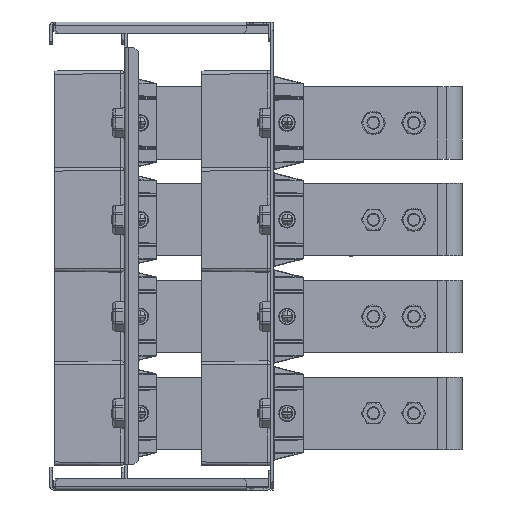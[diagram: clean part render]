
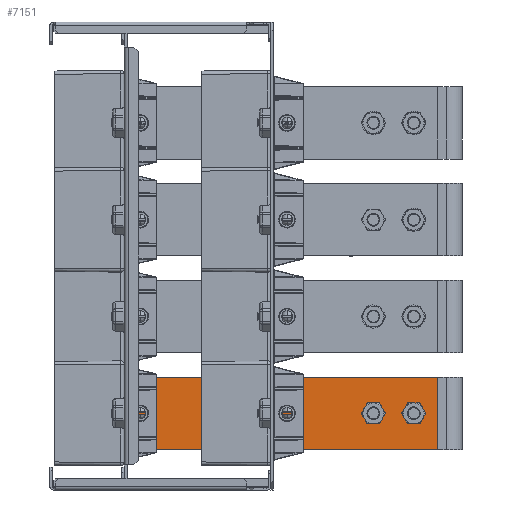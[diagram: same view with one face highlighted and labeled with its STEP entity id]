
A CAD part, left-side view. The second image highlights one B-rep face of the part: STEP entity #7151.
In plain terms, the highlighted planar face has unit normal (-1, 0, 0).
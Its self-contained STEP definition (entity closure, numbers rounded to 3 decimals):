
#6466=CARTESIAN_POINT(' ',(-2.5,-22.5,-0.5));
#6467=VERTEX_POINT(' ',#6466);
#6481=CARTESIAN_POINT(' ',(-2.5,-22.5,-0.5));
#6486=DIRECTION(' ',(0.,0.,-1.));
#6491=VECTOR(' ',#6486,1.);
#6496=LINE('',#6481,#6491);
#6501=CARTESIAN_POINT(' ',(-2.5,-22.5,-226.));
#6502=VERTEX_POINT(' ',#6501);
#6506=EDGE_CURVE(' ',#6467,#6502,#6496,.T.);
#6741=CARTESIAN_POINT(' ',(-2.5,22.5,-0.5));
#6746=DIRECTION(' ',(0.,0.,-1.));
#6751=VECTOR(' ',#6746,1.);
#6756=LINE('',#6741,#6751);
#6761=CARTESIAN_POINT(' ',(-2.5,22.5,-0.5));
#6762=VERTEX_POINT(' ',#6761);
#6766=CARTESIAN_POINT(' ',(-2.5,22.5,-226.));
#6767=VERTEX_POINT(' ',#6766);
#6771=EDGE_CURVE(' ',#6762,#6767,#6756,.T.);
#7016=CARTESIAN_POINT(' ',(-2.5,-22.5,-0.5));
#7021=DIRECTION(' ',(0.,1.,0.));
#7026=VECTOR(' ',#7021,1.);
#7031=LINE('',#7016,#7026);
#7036=EDGE_CURVE(' ',#6467,#6762,#7031,.T.);
#7071=DIRECTION(' ',(-1.,-0.,-0.));
#7076=CARTESIAN_POINT(' ',(-2.5,-22.5,-0.5));
#7081=DIRECTION(' ',(-0.,1.,0.));
#7086=AXIS2_PLACEMENT_3D(' ',#7076,#7071,#7081);
#7091=PLANE('NONE',#7086);
#7096=ORIENTED_EDGE(' ',*,*,#6506,.F.);
#7101=ORIENTED_EDGE(' ',*,*,#7036,.T.);
#7106=ORIENTED_EDGE(' ',*,*,#6771,.T.);
#7111=CARTESIAN_POINT(' ',(-2.5,22.5,-226.));
#7116=DIRECTION(' ',(0.,-1.,0.));
#7121=VECTOR(' ',#7116,1.);
#7126=LINE('',#7111,#7121);
#7131=EDGE_CURVE(' ',#6767,#6502,#7126,.T.);
#7136=ORIENTED_EDGE(' ',*,*,#7131,.T.);
#7141=EDGE_LOOP(' ',(#7096,#7101,#7106,#7136));
#7146=FACE_OUTER_BOUND(' ',#7141,.T.);
#7151=ADVANCED_FACE('NONE',(#7146),#7091,.T.);
